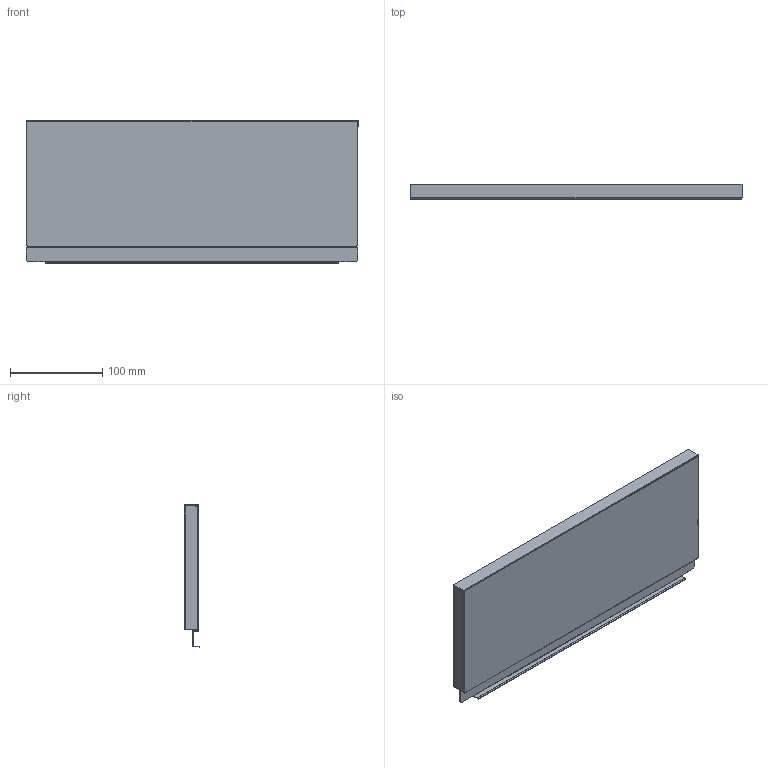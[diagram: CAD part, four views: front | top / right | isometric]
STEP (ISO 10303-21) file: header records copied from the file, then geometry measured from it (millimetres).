
FILE_DESCRIPTION (( 'STEP AP214' ), '1' );
FILE_NAME ('_STRW_H154_KAB_450.step', '2010-08-24T14:40:34', ( 'grass' ), ( '' ), 'SwSTEP 2.0', 'SolidWorks 2009', '' );
FILE_SCHEMA (( 'AUTOMOTIVE_DESIGN' ));
Length unit declared in the file: millimetre
Products named in the file (1): _STRW_H154_KAB_450
Bounding box: 360 x 17 x 154.14 mm (x, y, z)
Volume: 56214.3 mm3; surface area: 141480.1 mm2
Topology: 1 solids, 1 shells, 76 faces, 214 edges, 140 vertices
Faces by surface type: plane 54, cylinder 22
Entity records: 2472 total; most frequent: CARTESIAN_POINT 431, ORIENTED_EDGE 428, DIRECTION 412, EDGE_CURVE 214, LINE 170, VECTOR 170, VERTEX_POINT 140, AXIS2_PLACEMENT_3D 121
